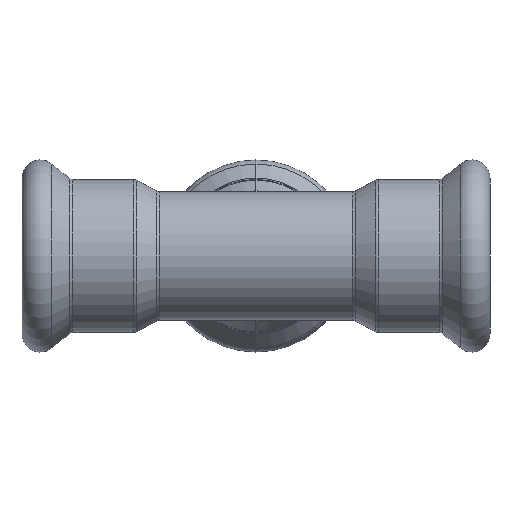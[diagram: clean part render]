
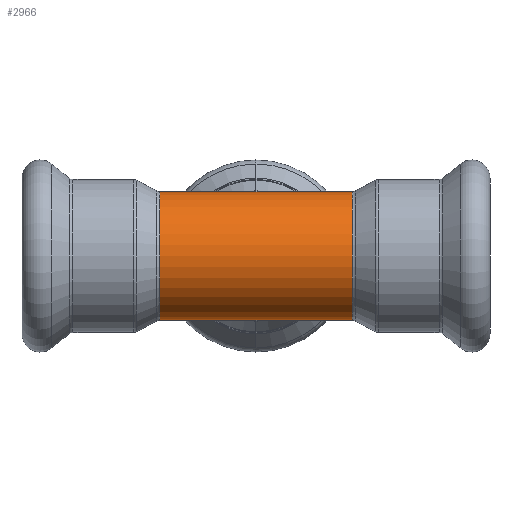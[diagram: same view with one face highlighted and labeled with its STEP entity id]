
A CAD part, front view. The second image highlights one B-rep face of the part: STEP entity #2966.
In plain terms, the highlighted cylindrical face has radius 10.6 mm (diameter 21.2 mm), a partial arc.
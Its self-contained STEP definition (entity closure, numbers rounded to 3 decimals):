
#195 = EDGE_CURVE ( 'NONE', #1390, #3424, #3001, .T. ) ;
#305 = ORIENTED_EDGE ( 'NONE', *, *, #195, .T. ) ;
#325 = DIRECTION ( 'NONE',  ( -1., 0., 0. ) ) ;
#342 = CARTESIAN_POINT ( 'NONE',  ( -15.877, 0., 10.6 ) ) ;
#397 = EDGE_CURVE ( 'NONE', #3187, #879, #1170, .T. ) ;
#462 = CARTESIAN_POINT ( 'NONE',  ( -15.877, 0., 0. ) ) ;
#624 = LINE ( 'NONE', #1263, #3647 ) ;
#637 = ORIENTED_EDGE ( 'NONE', *, *, #1171, .F. ) ;
#744 = DIRECTION ( 'NONE',  ( 1., 0., 0. ) ) ;
#761 = LINE ( 'NONE', #2102, #1092 ) ;
#766 = DIRECTION ( 'NONE',  ( 0., 0., 1. ) ) ;
#833 = DIRECTION ( 'NONE',  ( 0., 0., 1. ) ) ;
#879 = VERTEX_POINT ( 'NONE', #1602 ) ;
#1076 = EDGE_CURVE ( 'NONE', #3234, #1390, #1825, .T. ) ;
#1092 = VECTOR ( 'NONE', #1402, 1000. ) ;
#1170 = CIRCLE ( 'NONE', #3780, 10.6 ) ;
#1171 = EDGE_CURVE ( 'NONE', #3187, #2035, #624, .T. ) ;
#1263 = CARTESIAN_POINT ( 'NONE',  ( 0., 0., -10.6 ) ) ;
#1387 = DIRECTION ( 'NONE',  ( -1., 0., 0. ) ) ;
#1390 = VERTEX_POINT ( 'NONE', #342 ) ;
#1402 = DIRECTION ( 'NONE',  ( -1., 0., 0. ) ) ;
#1602 = CARTESIAN_POINT ( 'NONE',  ( 15.877, 0., 10.6 ) ) ;
#1649 = AXIS2_PLACEMENT_3D ( 'NONE', #2641, #1387, #766 ) ;
#1825 = LINE ( 'NONE', #4093, #2906 ) ;
#2000 = CYLINDRICAL_SURFACE ( 'NONE', #1649, 10.6 ) ;
#2035 = VERTEX_POINT ( 'NONE', #3307 ) ;
#2044 = DIRECTION ( 'NONE',  ( 0., 0., 1. ) ) ;
#2102 = CARTESIAN_POINT ( 'NONE',  ( 0., 0., 10.6 ) ) ;
#2106 = CARTESIAN_POINT ( 'NONE',  ( 15.877, 0., -10.6 ) ) ;
#2167 = ORIENTED_EDGE ( 'NONE', *, *, #3813, .F. ) ;
#2485 = EDGE_CURVE ( 'NONE', #879, #3234, #761, .T. ) ;
#2500 = LINE ( 'NONE', #3121, #4159 ) ;
#2590 = FACE_OUTER_BOUND ( 'NONE', #2805, .T. ) ;
#2641 = CARTESIAN_POINT ( 'NONE',  ( 0., 0., 0. ) ) ;
#2739 = CARTESIAN_POINT ( 'NONE',  ( 0., 0., 10.6 ) ) ;
#2805 = EDGE_LOOP ( 'NONE', ( #637, #3716, #3584, #3098, #305, #2167 ) ) ;
#2906 = VECTOR ( 'NONE', #4045, 1000. ) ;
#2966 = ADVANCED_FACE ( 'NONE', ( #2590 ), #2000, .T. ) ;
#3001 = CIRCLE ( 'NONE', #3347, 10.6 ) ;
#3098 = ORIENTED_EDGE ( 'NONE', *, *, #1076, .T. ) ;
#3121 = CARTESIAN_POINT ( 'NONE',  ( 0., 0., -10.6 ) ) ;
#3187 = VERTEX_POINT ( 'NONE', #2106 ) ;
#3234 = VERTEX_POINT ( 'NONE', #2739 ) ;
#3289 = CARTESIAN_POINT ( 'NONE',  ( -15.877, 0., -10.6 ) ) ;
#3307 = CARTESIAN_POINT ( 'NONE',  ( 0., 0., -10.6 ) ) ;
#3347 = AXIS2_PLACEMENT_3D ( 'NONE', #462, #744, #2044 ) ;
#3424 = VERTEX_POINT ( 'NONE', #3289 ) ;
#3584 = ORIENTED_EDGE ( 'NONE', *, *, #2485, .T. ) ;
#3647 = VECTOR ( 'NONE', #325, 1000. ) ;
#3670 = DIRECTION ( 'NONE',  ( -1., 0., 0. ) ) ;
#3688 = CARTESIAN_POINT ( 'NONE',  ( 15.877, 0., 0. ) ) ;
#3716 = ORIENTED_EDGE ( 'NONE', *, *, #397, .T. ) ;
#3748 = DIRECTION ( 'NONE',  ( -1., 0., 0. ) ) ;
#3780 = AXIS2_PLACEMENT_3D ( 'NONE', #3688, #3670, #833 ) ;
#3813 = EDGE_CURVE ( 'NONE', #2035, #3424, #2500, .T. ) ;
#4045 = DIRECTION ( 'NONE',  ( -1., 0., 0. ) ) ;
#4093 = CARTESIAN_POINT ( 'NONE',  ( 0., 0., 10.6 ) ) ;
#4159 = VECTOR ( 'NONE', #3748, 1000. ) ;
